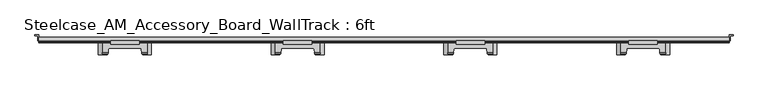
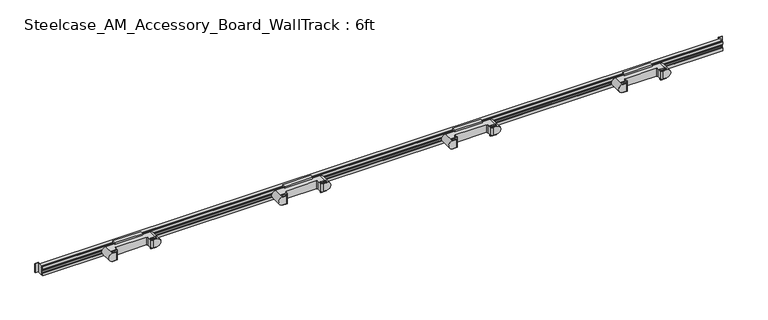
"""IFC4 building model written with IfcOpenShell, lengths in millimetres: furniture geometry, Steelcase_AM_Accessory_Board_WallTrack : 6ft."""

from ifc_helpers import new_model, si_unit, point, frame, frame_2d, origin, place, context, project, spatial, polyline, circle_curve, trimmed, segment, composite_curve, outline, extrude, source, transform, mapped, element, save
from ifc_brep_helpers import plane_surface, cylinder_surface, revolved_surface, advanced_brep


def steelcase_am_accessory_board_walltrack_6ft_874cfd16(model_context):
    return source(origin(), model_context, "Body", "SolidModel", [
        extrude(outline(composite_curve([segment(polyline([(914.5909219, -104.4956), (929.5396133, -104.4956), (929.4187577, -105.8769861)]), True, "CONTINUOUS"), segment(trimmed(circle_curve(frame_2d((924.6617288, -105.4608)), 4.7752), [point((929.4187577, -105.8769861))], [point((928.8948504, -107.6706))], False, "CARTESIAN"), True, "CONTINUOUS"), segment(polyline([(928.8948504, -107.6706), (914.5909219, -107.6706), (914.5909219, -104.4956)]), True, "CONTINUOUS")], self_intersect=False)), frame((0.0, 0.0, 616.4072), z_axis=(0.0, 0.0, 1.0), x_axis=(1.0, 0.0, 0.0)), (0.0, 0.0, 1.0), 3.2512),
        extrude(outline(composite_curve([segment(polyline([(1033.7169219, -104.4956), (1033.7169219, -107.6706), (1019.4129934, -107.6706)]), True, "CONTINUOUS"), segment(trimmed(circle_curve(frame_2d((1023.646115, -105.4608)), 4.7752), [point((1019.4129934, -107.6706))], [point((1018.8890861, -105.8769861))], False, "CARTESIAN"), True, "CONTINUOUS"), segment(polyline([(1018.8890861, -105.8769861), (1018.7682305, -104.4956), (1033.7169219, -104.4956)]), True, "CONTINUOUS")], self_intersect=False)), frame((0.0, 0.0, 616.4072), z_axis=(0.0, 0.0, 1.0), x_axis=(1.0, 0.0, 0.0)), (0.0, 0.0, 1.0), 3.2512),
        extrude(outline(composite_curve([segment(polyline([(914.5909219, -104.4956), (929.5396133, -104.4956), (929.4187577, -105.8769861)]), True, "CONTINUOUS"), segment(trimmed(circle_curve(frame_2d((924.6617288, -105.4608)), 4.7752), [point((929.4187577, -105.8769861))], [point((928.8948504, -107.6706))], False, "CARTESIAN"), True, "CONTINUOUS"), segment(polyline([(928.8948504, -107.6706), (914.5909219, -107.6706), (914.5909219, -104.4956)]), True, "CONTINUOUS")], self_intersect=False)), frame((0.0, 0.0, 641.604), z_axis=(0.0, 0.0, 1.0), x_axis=(1.0, 0.0, 0.0)), (0.0, 0.0, 1.0), 3.2512),
        extrude(outline(composite_curve([segment(polyline([(1033.7169219, -104.4956), (1033.7169219, -107.6706), (1019.4129934, -107.6706)]), True, "CONTINUOUS"), segment(trimmed(circle_curve(frame_2d((1023.646115, -105.4608)), 4.7752), [point((1019.4129934, -107.6706))], [point((1018.8890861, -105.8769861))], False, "CARTESIAN"), True, "CONTINUOUS"), segment(polyline([(1018.8890861, -105.8769861), (1018.7682305, -104.4956), (1033.7169219, -104.4956)]), True, "CONTINUOUS")], self_intersect=False)), frame((0.0, 0.0, 641.604), z_axis=(0.0, 0.0, 1.0), x_axis=(1.0, 0.0, 0.0)), (0.0, 0.0, 1.0), 3.2512),
        advanced_brep(
        [(930.3842883, -94.8409207, 641.604), (932.7374994, -92.6846, 641.604), (1015.5703444, -92.6846, 641.604), (1017.9235555, -94.8409207, 641.604), (1018.8890861, -105.8769861, 641.604), (1023.646115, -110.236, 641.604), (1033.3359219, -110.236, 641.604), (1033.3359219, -78.359, 641.604), (914.9719219, -78.359, 641.604), (914.9719219, -110.236, 641.604), (924.6617288, -110.236, 641.604), (929.4187577, -105.8769861, 641.604), (930.3842883, -94.8409207, 619.6584), (929.4187577, -105.8769861, 619.6584), (924.6617288, -110.236, 619.6584), (914.9719219, -110.236, 619.6584), (914.9719219, -78.359, 619.6584), (1033.3359219, -78.359, 619.6584), (1033.3359219, -110.236, 619.6584), (1023.646115, -110.236, 619.6584), (1018.8890861, -105.8769861, 619.6584), (1017.9235555, -94.8409207, 619.6584), (1015.5703444, -92.6846, 619.6584), (932.7374994, -92.6846, 619.6584), (1044.3087219, -110.236, 630.6312), (1044.3087219, -78.359, 630.6312), (903.9991219, -78.359, 630.6312), (903.9991219, -110.236, 630.6312)],
        [
            (0, 1, circle_curve(frame((932.7374994, -95.0468, 641.604), z_axis=(0.0, 0.0, -1.0), x_axis=(-0.9961946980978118, 0.08715574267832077, 0.0)), 2.3622)),
            (1, 2),
            (2, 3, circle_curve(frame((1015.5703444, -95.0468, 641.604), z_axis=(0.0, 0.0, -1.0), x_axis=(0.0, 1.0, 0.0)), 2.3622)),
            (3, 4),
            (4, 5, circle_curve(frame((1023.646115, -105.4608, 641.604), z_axis=(0.0, 0.0, 1.0), x_axis=(-0.9961946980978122, -0.08715574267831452, 0.0)), 4.7752)),
            (5, 6),
            (6, 7),
            (7, 8),
            (8, 9),
            (9, 10),
            (10, 11, circle_curve(frame((924.6617288, -105.4608, 641.604), z_axis=(0.0, 0.0, 1.0), x_axis=(0.0, -1.0, 0.0)), 4.7752)),
            (11, 0),
            (12, 13),
            (13, 14, circle_curve(frame((924.6617288, -105.4608, 619.6584), z_axis=(0.0, 0.0, -1.0), x_axis=(0.0, -1.0, 0.0)), 4.7752)),
            (14, 15),
            (15, 16),
            (16, 17),
            (17, 18),
            (18, 19),
            (19, 20, circle_curve(frame((1023.646115, -105.4608, 619.6584), z_axis=(0.0, 0.0, -1.0), x_axis=(-0.9961946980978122, -0.08715574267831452, 0.0)), 4.7752)),
            (20, 21),
            (21, 22, circle_curve(frame((1015.5703444, -95.0468, 619.6584), z_axis=(0.0, 0.0, 1.0), x_axis=(0.0, 1.0, 0.0)), 2.3622)),
            (22, 23),
            (23, 12, circle_curve(frame((932.7374994, -95.0468, 619.6584), z_axis=(0.0, 0.0, 1.0), x_axis=(-0.9961946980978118, 0.08715574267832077, 0.0)), 2.3622)),
            (0, 12),
            (23, 1),
            (22, 2),
            (21, 3),
            (20, 4),
            (19, 5),
            (18, 24, circle_curve(frame((1033.3359219, -110.236, 630.6312), z_axis=(0.0, -1.0, 0.0), x_axis=(-1.0, 0.0, 0.0)), 10.9728)),
            (24, 6, circle_curve(frame((1033.3359219, -110.236, 630.6312), z_axis=(0.0, -1.0, 0.0), x_axis=(-1.0, 0.0, 0.0)), 10.9728)),
            (7, 25, circle_curve(frame((1033.3359219, -78.359, 630.6312), z_axis=(0.0, 1.0, 0.0), x_axis=(-1.0, 0.0, 0.0)), 10.9728)),
            (25, 17, circle_curve(frame((1033.3359219, -78.359, 630.6312), z_axis=(0.0, 1.0, 0.0), x_axis=(-1.0, 0.0, 0.0)), 10.9728)),
            (16, 26, circle_curve(frame((914.9719219, -78.359, 630.6312), z_axis=(0.0, 1.0, 0.0), x_axis=(1.0, 0.0, 0.0)), 10.9728)),
            (26, 8, circle_curve(frame((914.9719219, -78.359, 630.6312), z_axis=(0.0, 1.0, 0.0), x_axis=(1.0, 0.0, 0.0)), 10.9728)),
            (14, 10),
            (9, 27, circle_curve(frame((914.9719219, -110.236, 630.6312), z_axis=(0.0, -1.0, 0.0), x_axis=(1.0, 0.0, 0.0)), 10.9728)),
            (27, 15, circle_curve(frame((914.9719219, -110.236, 630.6312), z_axis=(0.0, -1.0, 0.0), x_axis=(1.0, 0.0, 0.0)), 10.9728)),
            (13, 11),
        ],
        [
            plane_surface(frame((930.3842883, -94.8409207, 641.604), z_axis=(0.0, 0.0, 1.0), x_axis=(0.08715574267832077, 0.9961946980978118, 0.0))),
            plane_surface(frame((930.3842883, -94.8409207, 619.6584), z_axis=(0.0, 0.0, -1.0), x_axis=(-0.08715574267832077, -0.9961946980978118, 0.0))),
            revolved_surface(polyline([(930.3842882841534, -94.84092070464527, 619.6584), (930.3842882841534, -94.84092070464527, 641.604)]), (932.7374994, -95.0468, 619.6584), (0.0, 0.0, -1.0)),
            plane_surface(frame((932.7374994, -92.6846, 641.604), z_axis=(0.0, -1.0, 0.0), x_axis=(0.0, 0.0, -1.0))),
            revolved_surface(polyline([(1015.5703444, -92.6846, 619.6584), (1015.5703444, -92.6846, 641.604)]), (1015.5703444, -95.0468, 619.6584), (0.0, 0.0, -1.0)),
            plane_surface(frame((1017.9235555, -94.8409207, 641.604), z_axis=(-0.9961946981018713, -0.08715574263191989, 0.0), x_axis=(0.0, 0.0, -1.0))),
            cylinder_surface(frame((1023.646115, -105.4608, 619.6584), z_axis=(0.0, 0.0, 0.9999999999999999), x_axis=(-0.9961946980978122, -0.08715574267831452, 0.0)), 4.7752),
            plane_surface(frame((1023.646115, -110.236, 641.604), z_axis=(0.0, -1.0, 0.0), x_axis=(0.0, 0.0, -1.0))),
            plane_surface(frame((1044.3087219, -78.359, 641.604), z_axis=(0.0, 1.0, 0.0), x_axis=(0.0, 0.0, -1.0))),
            plane_surface(frame((903.9991219, -110.236, 641.604), z_axis=(0.0, -1.0, 0.0), x_axis=(0.0, 0.0, -1.0))),
            cylinder_surface(frame((924.6617288, -105.4608, 619.6584), z_axis=(0.0, 0.0, 1.0), x_axis=(0.0, -1.0, 0.0)), 4.7752),
            plane_surface(frame((929.4187577, -105.8769861, 641.604), z_axis=(0.9961946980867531, -0.08715574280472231, 0.0), x_axis=(0.0, 0.0, -1.0))),
            cylinder_surface(frame((914.9719219, -27.559, 630.6312), z_axis=(0.0, 1.0, 0.0), x_axis=(1.0, 0.0, 0.0)), 10.9728),
            cylinder_surface(frame((1033.3359219, -78.359, 630.6312), z_axis=(0.0, 1.0, 0.0), x_axis=(-1.0, 0.0, 0.0)), 10.9728),
        ],
        [
            (0, [[1, 2, 3, 4, 5, 6, 7, 8, 9, 10, 11, 12]]),
            (1, [[13, 14, 15, 16, 17, 18, 19, 20, 21, 22, 23, 24]]),
            (2, [[-1, 25, -24, 26]]),
            (3, [[-2, -26, -23, 27]]),
            (4, [[-3, -27, -22, 28]]),
            (5, [[-4, -28, -21, 29]]),
            (6, [[-5, -29, -20, 30]]),
            (7, [[-30, -19, 31, 32, -6]]),
            (8, [[-8, 33, 34, -17, 35, 36]]),
            (9, [[37, -10, 38, 39, -15]]),
            (10, [[-11, -37, -14, 40]]),
            (11, [[-12, -40, -13, -25]]),
            (12, [[-9, -36, -35, -16, -39, -38]]),
            (13, [[-7, -32, -31, -18, -34, -33]]),
        ],
    ),
        extrude(outline(polyline([(-81.661, 646.6636205), (-72.898, 646.6636205), (-72.898, 640.4094834), (-76.2, 640.4094834), (-76.2, 643.3616205), (-78.359, 643.3616205), (-78.359, 641.604), (-81.661, 641.604), (-81.661, 646.6636205)])), frame((936.6889219, 0.0, 0.0), z_axis=(1.0, 0.0, 0.0), x_axis=(0.0, 1.0, 0.0)), (0.0, 0.0, 1.0), 74.93),
        extrude(outline(polyline([(-81.661, 614.6382676), (-81.661, 619.6978881), (-78.359, 619.6978881), (-78.359, 617.9402676), (-76.2, 617.9402676), (-76.2, 620.8924047), (-72.898, 620.8924047), (-72.898, 614.6382676), (-81.661, 614.6382676)])), frame((936.6889219, 0.0, 0.0), z_axis=(1.0, 0.0, 0.0), x_axis=(0.0, 1.0, 0.0)), (0.0, 0.0, 1.0), 74.93),
        extrude(outline(composite_curve([segment(polyline([(457.3909219, -104.4956), (472.3396133, -104.4956), (472.2187577, -105.8769861)]), True, "CONTINUOUS"), segment(trimmed(circle_curve(frame_2d((467.4617288, -105.4608)), 4.7752), [point((472.2187577, -105.8769861))], [point((471.6948504, -107.6706))], False, "CARTESIAN"), True, "CONTINUOUS"), segment(polyline([(471.6948504, -107.6706), (457.3909219, -107.6706), (457.3909219, -104.4956)]), True, "CONTINUOUS")], self_intersect=False)), frame((0.0, 0.0, 616.4072), z_axis=(0.0, 0.0, 1.0), x_axis=(1.0, 0.0, 0.0)), (0.0, 0.0, 1.0), 3.2512),
        extrude(outline(composite_curve([segment(polyline([(576.5169219, -104.4956), (576.5169219, -107.6706), (562.2129934, -107.6706)]), True, "CONTINUOUS"), segment(trimmed(circle_curve(frame_2d((566.446115, -105.4608)), 4.7752), [point((562.2129934, -107.6706))], [point((561.6890861, -105.8769861))], False, "CARTESIAN"), True, "CONTINUOUS"), segment(polyline([(561.6890861, -105.8769861), (561.5682305, -104.4956), (576.5169219, -104.4956)]), True, "CONTINUOUS")], self_intersect=False)), frame((0.0, 0.0, 616.4072), z_axis=(0.0, 0.0, 1.0), x_axis=(1.0, 0.0, 0.0)), (0.0, 0.0, 1.0), 3.2512),
        extrude(outline(composite_curve([segment(polyline([(457.3909219, -104.4956), (472.3396133, -104.4956), (472.2187577, -105.8769861)]), True, "CONTINUOUS"), segment(trimmed(circle_curve(frame_2d((467.4617288, -105.4608)), 4.7752), [point((472.2187577, -105.8769861))], [point((471.6948504, -107.6706))], False, "CARTESIAN"), True, "CONTINUOUS"), segment(polyline([(471.6948504, -107.6706), (457.3909219, -107.6706), (457.3909219, -104.4956)]), True, "CONTINUOUS")], self_intersect=False)), frame((0.0, 0.0, 641.604), z_axis=(0.0, 0.0, 1.0), x_axis=(1.0, 0.0, 0.0)), (0.0, 0.0, 1.0), 3.2512),
        extrude(outline(composite_curve([segment(polyline([(576.5169219, -104.4956), (576.5169219, -107.6706), (562.2129934, -107.6706)]), True, "CONTINUOUS"), segment(trimmed(circle_curve(frame_2d((566.446115, -105.4608)), 4.7752), [point((562.2129934, -107.6706))], [point((561.6890861, -105.8769861))], False, "CARTESIAN"), True, "CONTINUOUS"), segment(polyline([(561.6890861, -105.8769861), (561.5682305, -104.4956), (576.5169219, -104.4956)]), True, "CONTINUOUS")], self_intersect=False)), frame((0.0, 0.0, 641.604), z_axis=(0.0, 0.0, 1.0), x_axis=(1.0, 0.0, 0.0)), (0.0, 0.0, 1.0), 3.2512),
        advanced_brep(
        [(473.1842883, -94.8409207, 641.604), (475.5374994, -92.6846, 641.604), (558.3703444, -92.6846, 641.604), (560.7235555, -94.8409207, 641.604), (561.6890861, -105.8769861, 641.604), (566.446115, -110.236, 641.604), (576.1359219, -110.236, 641.604), (576.1359219, -78.359, 641.604), (457.7719219, -78.359, 641.604), (457.7719219, -110.236, 641.604), (467.4617288, -110.236, 641.604), (472.2187577, -105.8769861, 641.604), (473.1842883, -94.8409207, 619.6584), (472.2187577, -105.8769861, 619.6584), (467.4617288, -110.236, 619.6584), (457.7719219, -110.236, 619.6584), (457.7719219, -78.359, 619.6584), (576.1359219, -78.359, 619.6584), (576.1359219, -110.236, 619.6584), (566.446115, -110.236, 619.6584), (561.6890861, -105.8769861, 619.6584), (560.7235555, -94.8409207, 619.6584), (558.3703444, -92.6846, 619.6584), (475.5374994, -92.6846, 619.6584), (587.1087219, -110.236, 630.6312), (587.1087219, -78.359, 630.6312), (446.7991219, -78.359, 630.6312), (446.7991219, -110.236, 630.6312)],
        [
            (0, 1, circle_curve(frame((475.5374994, -95.0468, 641.604), z_axis=(0.0, 0.0, -1.0), x_axis=(-0.9961946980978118, 0.08715574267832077, 0.0)), 2.3622)),
            (1, 2),
            (2, 3, circle_curve(frame((558.3703444, -95.0468, 641.604), z_axis=(0.0, 0.0, -1.0), x_axis=(0.0, 1.0, 0.0)), 2.3622)),
            (3, 4),
            (4, 5, circle_curve(frame((566.446115, -105.4608, 641.604), z_axis=(0.0, 0.0, 1.0), x_axis=(-0.9961946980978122, -0.08715574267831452, 0.0)), 4.7752)),
            (5, 6),
            (6, 7),
            (7, 8),
            (8, 9),
            (9, 10),
            (10, 11, circle_curve(frame((467.4617288, -105.4608, 641.604), z_axis=(0.0, 0.0, 1.0), x_axis=(0.0, -1.0, 0.0)), 4.7752)),
            (11, 0),
            (12, 13),
            (13, 14, circle_curve(frame((467.4617288, -105.4608, 619.6584), z_axis=(0.0, 0.0, -1.0), x_axis=(0.0, -1.0, 0.0)), 4.7752)),
            (14, 15),
            (15, 16),
            (16, 17),
            (17, 18),
            (18, 19),
            (19, 20, circle_curve(frame((566.446115, -105.4608, 619.6584), z_axis=(0.0, 0.0, -1.0), x_axis=(-0.9961946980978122, -0.08715574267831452, 0.0)), 4.7752)),
            (20, 21),
            (21, 22, circle_curve(frame((558.3703444, -95.0468, 619.6584), z_axis=(0.0, 0.0, 1.0), x_axis=(0.0, 1.0, 0.0)), 2.3622)),
            (22, 23),
            (23, 12, circle_curve(frame((475.5374994, -95.0468, 619.6584), z_axis=(0.0, 0.0, 1.0), x_axis=(-0.9961946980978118, 0.08715574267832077, 0.0)), 2.3622)),
            (0, 12),
            (23, 1),
            (22, 2),
            (21, 3),
            (20, 4),
            (19, 5),
            (18, 24, circle_curve(frame((576.1359219, -110.236, 630.6312), z_axis=(0.0, -1.0, 0.0), x_axis=(-1.0, 0.0, 0.0)), 10.9728)),
            (24, 6, circle_curve(frame((576.1359219, -110.236, 630.6312), z_axis=(0.0, -1.0, 0.0), x_axis=(-1.0, 0.0, 0.0)), 10.9728)),
            (7, 25, circle_curve(frame((576.1359219, -78.359, 630.6312), z_axis=(0.0, 1.0, 0.0), x_axis=(-1.0, 0.0, 0.0)), 10.9728)),
            (25, 17, circle_curve(frame((576.1359219, -78.359, 630.6312), z_axis=(0.0, 1.0, 0.0), x_axis=(-1.0, 0.0, 0.0)), 10.9728)),
            (16, 26, circle_curve(frame((457.7719219, -78.359, 630.6312), z_axis=(0.0, 1.0, 0.0), x_axis=(1.0, 0.0, 0.0)), 10.9728)),
            (26, 8, circle_curve(frame((457.7719219, -78.359, 630.6312), z_axis=(0.0, 1.0, 0.0), x_axis=(1.0, 0.0, 0.0)), 10.9728)),
            (14, 10),
            (9, 27, circle_curve(frame((457.7719219, -110.236, 630.6312), z_axis=(0.0, -1.0, 0.0), x_axis=(1.0, 0.0, 0.0)), 10.9728)),
            (27, 15, circle_curve(frame((457.7719219, -110.236, 630.6312), z_axis=(0.0, -1.0, 0.0), x_axis=(1.0, 0.0, 0.0)), 10.9728)),
            (13, 11),
        ],
        [
            plane_surface(frame((473.1842883, -94.8409207, 641.604), z_axis=(0.0, 0.0, 1.0), x_axis=(0.08715574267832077, 0.9961946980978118, 0.0))),
            plane_surface(frame((473.1842883, -94.8409207, 619.6584), z_axis=(0.0, 0.0, -1.0), x_axis=(-0.08715574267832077, -0.9961946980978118, 0.0))),
            revolved_surface(polyline([(473.18428828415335, -94.84092070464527, 619.6584), (473.18428828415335, -94.84092070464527, 641.604)]), (475.5374994, -95.0468, 619.6584), (0.0, 0.0, -1.0)),
            plane_surface(frame((475.5374994, -92.6846, 641.604), z_axis=(0.0, -1.0, 0.0), x_axis=(0.0, 0.0, -1.0))),
            revolved_surface(polyline([(558.3703444, -92.6846, 619.6584), (558.3703444, -92.6846, 641.604)]), (558.3703444, -95.0468, 619.6584), (0.0, 0.0, -1.0)),
            plane_surface(frame((560.7235555, -94.8409207, 641.604), z_axis=(-0.9961946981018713, -0.08715574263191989, 0.0), x_axis=(0.0, 0.0, -1.0))),
            cylinder_surface(frame((566.446115, -105.4608, 619.6584), z_axis=(0.0, 0.0, 0.9999999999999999), x_axis=(-0.9961946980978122, -0.08715574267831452, 0.0)), 4.7752),
            plane_surface(frame((566.446115, -110.236, 641.604), z_axis=(0.0, -1.0, 0.0), x_axis=(0.0, 0.0, -1.0))),
            plane_surface(frame((587.1087219, -78.359, 641.604), z_axis=(0.0, 1.0, 0.0), x_axis=(0.0, 0.0, -1.0))),
            plane_surface(frame((446.7991219, -110.236, 641.604), z_axis=(0.0, -1.0, 0.0), x_axis=(0.0, 0.0, -1.0))),
            cylinder_surface(frame((467.4617288, -105.4608, 619.6584), z_axis=(0.0, 0.0, 1.0), x_axis=(0.0, -1.0, 0.0)), 4.7752),
            plane_surface(frame((472.2187577, -105.8769861, 641.604), z_axis=(0.9961946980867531, -0.08715574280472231, 0.0), x_axis=(0.0, 0.0, -1.0))),
            cylinder_surface(frame((457.7719219, -27.559, 630.6312), z_axis=(0.0, 1.0, 0.0), x_axis=(1.0, 0.0, 0.0)), 10.9728),
            cylinder_surface(frame((576.1359219, -78.359, 630.6312), z_axis=(0.0, 1.0, 0.0), x_axis=(-1.0, 0.0, 0.0)), 10.9728),
        ],
        [
            (0, [[1, 2, 3, 4, 5, 6, 7, 8, 9, 10, 11, 12]]),
            (1, [[13, 14, 15, 16, 17, 18, 19, 20, 21, 22, 23, 24]]),
            (2, [[-1, 25, -24, 26]]),
            (3, [[-2, -26, -23, 27]]),
            (4, [[-3, -27, -22, 28]]),
            (5, [[-4, -28, -21, 29]]),
            (6, [[-5, -29, -20, 30]]),
            (7, [[-30, -19, 31, 32, -6]]),
            (8, [[-8, 33, 34, -17, 35, 36]]),
            (9, [[37, -10, 38, 39, -15]]),
            (10, [[-11, -37, -14, 40]]),
            (11, [[-12, -40, -13, -25]]),
            (12, [[-9, -36, -35, -16, -39, -38]]),
            (13, [[-7, -32, -31, -18, -34, -33]]),
        ],
    ),
        extrude(outline(polyline([(-81.661, 646.6636205), (-72.898, 646.6636205), (-72.898, 640.4094834), (-76.2, 640.4094834), (-76.2, 643.3616205), (-78.359, 643.3616205), (-78.359, 641.604), (-81.661, 641.604), (-81.661, 646.6636205)])), frame((479.4889219, 0.0, 0.0), z_axis=(1.0, 0.0, 0.0), x_axis=(0.0, 1.0, 0.0)), (0.0, 0.0, 1.0), 74.93),
        extrude(outline(polyline([(-81.661, 614.6382676), (-81.661, 619.6978881), (-78.359, 619.6978881), (-78.359, 617.9402676), (-76.2, 617.9402676), (-76.2, 620.8924047), (-72.898, 620.8924047), (-72.898, 614.6382676), (-81.661, 614.6382676)])), frame((479.4889219, 0.0, 0.0), z_axis=(1.0, 0.0, 0.0), x_axis=(0.0, 1.0, 0.0)), (0.0, 0.0, 1.0), 74.93),
        extrude(outline(composite_curve([segment(polyline([(0.1909219, -104.4956), (15.1396133, -104.4956), (15.0187577, -105.8769861)]), True, "CONTINUOUS"), segment(trimmed(circle_curve(frame_2d((10.2617288, -105.4608)), 4.7752), [point((15.0187577, -105.8769861))], [point((14.4948504, -107.6706))], False, "CARTESIAN"), True, "CONTINUOUS"), segment(polyline([(14.4948504, -107.6706), (0.1909219, -107.6706), (0.1909219, -104.4956)]), True, "CONTINUOUS")], self_intersect=False)), frame((0.0, 0.0, 616.4072), z_axis=(0.0, 0.0, 1.0), x_axis=(1.0, 0.0, 0.0)), (0.0, 0.0, 1.0), 3.2512),
        extrude(outline(composite_curve([segment(polyline([(119.3169219, -104.4956), (119.3169219, -107.6706), (105.0129934, -107.6706)]), True, "CONTINUOUS"), segment(trimmed(circle_curve(frame_2d((109.246115, -105.4608)), 4.7752), [point((105.0129934, -107.6706))], [point((104.4890861, -105.8769861))], False, "CARTESIAN"), True, "CONTINUOUS"), segment(polyline([(104.4890861, -105.8769861), (104.3682305, -104.4956), (119.3169219, -104.4956)]), True, "CONTINUOUS")], self_intersect=False)), frame((0.0, 0.0, 616.4072), z_axis=(0.0, 0.0, 1.0), x_axis=(1.0, 0.0, 0.0)), (0.0, 0.0, 1.0), 3.2512),
        extrude(outline(composite_curve([segment(polyline([(0.1909219, -104.4956), (15.1396133, -104.4956), (15.0187577, -105.8769861)]), True, "CONTINUOUS"), segment(trimmed(circle_curve(frame_2d((10.2617288, -105.4608)), 4.7752), [point((15.0187577, -105.8769861))], [point((14.4948504, -107.6706))], False, "CARTESIAN"), True, "CONTINUOUS"), segment(polyline([(14.4948504, -107.6706), (0.1909219, -107.6706), (0.1909219, -104.4956)]), True, "CONTINUOUS")], self_intersect=False)), frame((0.0, 0.0, 641.604), z_axis=(0.0, 0.0, 1.0), x_axis=(1.0, 0.0, 0.0)), (0.0, 0.0, 1.0), 3.2512),
        extrude(outline(composite_curve([segment(polyline([(119.3169219, -104.4956), (119.3169219, -107.6706), (105.0129934, -107.6706)]), True, "CONTINUOUS"), segment(trimmed(circle_curve(frame_2d((109.246115, -105.4608)), 4.7752), [point((105.0129934, -107.6706))], [point((104.4890861, -105.8769861))], False, "CARTESIAN"), True, "CONTINUOUS"), segment(polyline([(104.4890861, -105.8769861), (104.3682305, -104.4956), (119.3169219, -104.4956)]), True, "CONTINUOUS")], self_intersect=False)), frame((0.0, 0.0, 641.604), z_axis=(0.0, 0.0, 1.0), x_axis=(1.0, 0.0, 0.0)), (0.0, 0.0, 1.0), 3.2512),
        advanced_brep(
        [(15.9842883, -94.8409207, 641.604), (18.3374994, -92.6846, 641.604), (101.1703444, -92.6846, 641.604), (103.5235555, -94.8409207, 641.604), (104.4890861, -105.8769861, 641.604), (109.246115, -110.236, 641.604), (118.9359219, -110.236, 641.604), (118.9359219, -78.359, 641.604), (0.5719219, -78.359, 641.604), (0.5719219, -110.236, 641.604), (10.2617288, -110.236, 641.604), (15.0187577, -105.8769861, 641.604), (15.9842883, -94.8409207, 619.6584), (15.0187577, -105.8769861, 619.6584), (10.2617288, -110.236, 619.6584), (0.5719219, -110.236, 619.6584), (0.5719219, -78.359, 619.6584), (118.9359219, -78.359, 619.6584), (118.9359219, -110.236, 619.6584), (109.246115, -110.236, 619.6584), (104.4890861, -105.8769861, 619.6584), (103.5235555, -94.8409207, 619.6584), (101.1703444, -92.6846, 619.6584), (18.3374994, -92.6846, 619.6584), (129.9087219, -110.236, 630.6312), (129.9087219, -78.359, 630.6312), (-10.4008781, -78.359, 630.6312), (-10.4008781, -110.236, 630.6312)],
        [
            (0, 1, circle_curve(frame((18.3374994, -95.0468, 641.604), z_axis=(0.0, 0.0, -1.0), x_axis=(-0.9961946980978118, 0.08715574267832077, 0.0)), 2.3622)),
            (1, 2),
            (2, 3, circle_curve(frame((101.1703444, -95.0468, 641.604), z_axis=(0.0, 0.0, -1.0), x_axis=(0.0, 1.0, 0.0)), 2.3622)),
            (3, 4),
            (4, 5, circle_curve(frame((109.246115, -105.4608, 641.604), z_axis=(0.0, 0.0, 1.0), x_axis=(-0.9961946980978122, -0.08715574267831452, 0.0)), 4.7752)),
            (5, 6),
            (6, 7),
            (7, 8),
            (8, 9),
            (9, 10),
            (10, 11, circle_curve(frame((10.2617288, -105.4608, 641.604), z_axis=(0.0, 0.0, 1.0), x_axis=(0.0, -1.0, 0.0)), 4.7752)),
            (11, 0),
            (12, 13),
            (13, 14, circle_curve(frame((10.2617288, -105.4608, 619.6584), z_axis=(0.0, 0.0, -1.0), x_axis=(0.0, -1.0, 0.0)), 4.7752)),
            (14, 15),
            (15, 16),
            (16, 17),
            (17, 18),
            (18, 19),
            (19, 20, circle_curve(frame((109.246115, -105.4608, 619.6584), z_axis=(0.0, 0.0, -1.0), x_axis=(-0.9961946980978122, -0.08715574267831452, 0.0)), 4.7752)),
            (20, 21),
            (21, 22, circle_curve(frame((101.1703444, -95.0468, 619.6584), z_axis=(0.0, 0.0, 1.0), x_axis=(0.0, 1.0, 0.0)), 2.3622)),
            (22, 23),
            (23, 12, circle_curve(frame((18.3374994, -95.0468, 619.6584), z_axis=(0.0, 0.0, 1.0), x_axis=(-0.9961946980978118, 0.08715574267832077, 0.0)), 2.3622)),
            (0, 12),
            (23, 1),
            (22, 2),
            (21, 3),
            (20, 4),
            (19, 5),
            (18, 24, circle_curve(frame((118.9359219, -110.236, 630.6312), z_axis=(0.0, -1.0, 0.0), x_axis=(-1.0, 0.0, 0.0)), 10.9728)),
            (24, 6, circle_curve(frame((118.9359219, -110.236, 630.6312), z_axis=(0.0, -1.0, 0.0), x_axis=(-1.0, 0.0, 0.0)), 10.9728)),
            (7, 25, circle_curve(frame((118.9359219, -78.359, 630.6312), z_axis=(0.0, 1.0, 0.0), x_axis=(-1.0, 0.0, 0.0)), 10.9728)),
            (25, 17, circle_curve(frame((118.9359219, -78.359, 630.6312), z_axis=(0.0, 1.0, 0.0), x_axis=(-1.0, 0.0, 0.0)), 10.9728)),
            (16, 26, circle_curve(frame((0.5719219, -78.359, 630.6312), z_axis=(0.0, 1.0, 0.0), x_axis=(1.0, 0.0, 0.0)), 10.9728)),
            (26, 8, circle_curve(frame((0.5719219, -78.359, 630.6312), z_axis=(0.0, 1.0, 0.0), x_axis=(1.0, 0.0, 0.0)), 10.9728)),
            (14, 10),
            (9, 27, circle_curve(frame((0.5719219, -110.236, 630.6312), z_axis=(0.0, -1.0, 0.0), x_axis=(1.0, 0.0, 0.0)), 10.9728)),
            (27, 15, circle_curve(frame((0.5719219, -110.236, 630.6312), z_axis=(0.0, -1.0, 0.0), x_axis=(1.0, 0.0, 0.0)), 10.9728)),
            (13, 11),
        ],
        [
            plane_surface(frame((15.9842883, -94.8409207, 641.604), z_axis=(0.0, 0.0, 1.0), x_axis=(0.08715574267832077, 0.9961946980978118, 0.0))),
            plane_surface(frame((15.9842883, -94.8409207, 619.6584), z_axis=(0.0, 0.0, -1.0), x_axis=(-0.08715574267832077, -0.9961946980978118, 0.0))),
            revolved_surface(polyline([(15.984288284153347, -94.84092070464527, 619.6584), (15.984288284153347, -94.84092070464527, 641.604)]), (18.3374994, -95.0468, 619.6584), (0.0, 0.0, -1.0)),
            plane_surface(frame((18.3374994, -92.6846, 641.604), z_axis=(0.0, -1.0, 0.0), x_axis=(0.0, 0.0, -1.0))),
            revolved_surface(polyline([(101.1703444, -92.6846, 619.6584), (101.1703444, -92.6846, 641.604)]), (101.1703444, -95.0468, 619.6584), (0.0, 0.0, -1.0)),
            plane_surface(frame((103.5235555, -94.8409207, 641.604), z_axis=(-0.9961946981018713, -0.08715574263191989, 0.0), x_axis=(0.0, 0.0, -1.0))),
            cylinder_surface(frame((109.246115, -105.4608, 619.6584), z_axis=(0.0, 0.0, 0.9999999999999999), x_axis=(-0.9961946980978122, -0.08715574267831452, 0.0)), 4.7752),
            plane_surface(frame((109.246115, -110.236, 641.604), z_axis=(0.0, -1.0, 0.0), x_axis=(0.0, 0.0, -1.0))),
            plane_surface(frame((129.9087219, -78.359, 641.604), z_axis=(0.0, 1.0, 0.0), x_axis=(0.0, 0.0, -1.0))),
            plane_surface(frame((-10.4008781, -110.236, 641.604), z_axis=(0.0, -1.0, 0.0), x_axis=(0.0, 0.0, -1.0))),
            cylinder_surface(frame((10.2617288, -105.4608, 619.6584), z_axis=(0.0, 0.0, 1.0), x_axis=(0.0, -1.0, 0.0)), 4.7752),
            plane_surface(frame((15.0187577, -105.8769861, 641.604), z_axis=(0.9961946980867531, -0.08715574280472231, 0.0), x_axis=(0.0, 0.0, -1.0))),
            cylinder_surface(frame((0.5719219, -27.559, 630.6312), z_axis=(0.0, 1.0, 0.0), x_axis=(1.0, 0.0, 0.0)), 10.9728),
            cylinder_surface(frame((118.9359219, -78.359, 630.6312), z_axis=(0.0, 1.0, 0.0), x_axis=(-1.0, 0.0, 0.0)), 10.9728),
        ],
        [
            (0, [[1, 2, 3, 4, 5, 6, 7, 8, 9, 10, 11, 12]]),
            (1, [[13, 14, 15, 16, 17, 18, 19, 20, 21, 22, 23, 24]]),
            (2, [[-1, 25, -24, 26]]),
            (3, [[-2, -26, -23, 27]]),
            (4, [[-3, -27, -22, 28]]),
            (5, [[-4, -28, -21, 29]]),
            (6, [[-5, -29, -20, 30]]),
            (7, [[-30, -19, 31, 32, -6]]),
            (8, [[-8, 33, 34, -17, 35, 36]]),
            (9, [[37, -10, 38, 39, -15]]),
            (10, [[-11, -37, -14, 40]]),
            (11, [[-12, -40, -13, -25]]),
            (12, [[-9, -36, -35, -16, -39, -38]]),
            (13, [[-7, -32, -31, -18, -34, -33]]),
        ],
    ),
        extrude(outline(polyline([(-81.661, 646.6636205), (-72.898, 646.6636205), (-72.898, 640.4094834), (-76.2, 640.4094834), (-76.2, 643.3616205), (-78.359, 643.3616205), (-78.359, 641.604), (-81.661, 641.604), (-81.661, 646.6636205)])), frame((22.2889219, 0.0, 0.0), z_axis=(1.0, 0.0, 0.0), x_axis=(0.0, 1.0, 0.0)), (0.0, 0.0, 1.0), 74.93),
        extrude(outline(polyline([(-81.661, 614.6382676), (-81.661, 619.6978881), (-78.359, 619.6978881), (-78.359, 617.9402676), (-76.2, 617.9402676), (-76.2, 620.8924047), (-72.898, 620.8924047), (-72.898, 614.6382676), (-81.661, 614.6382676)])), frame((22.2889219, 0.0, 0.0), z_axis=(1.0, 0.0, 0.0), x_axis=(0.0, 1.0, 0.0)), (0.0, 0.0, 1.0), 74.93),
        extrude(outline(composite_curve([segment(polyline([(-457.0090781, -104.4956), (-442.0603867, -104.4956), (-442.1812423, -105.8769861)]), True, "CONTINUOUS"), segment(trimmed(circle_curve(frame_2d((-446.9382712, -105.4608)), 4.7752), [point((-442.1812423, -105.8769861))], [point((-442.7051496, -107.6706))], False, "CARTESIAN"), True, "CONTINUOUS"), segment(polyline([(-442.7051496, -107.6706), (-457.0090781, -107.6706), (-457.0090781, -104.4956)]), True, "CONTINUOUS")], self_intersect=False)), frame((0.0, 0.0, 616.4072), z_axis=(0.0, 0.0, 1.0), x_axis=(1.0, 0.0, 0.0)), (0.0, 0.0, 1.0), 3.2512),
        extrude(outline(composite_curve([segment(polyline([(-337.8830781, -104.4956), (-337.8830781, -107.6706), (-352.1870066, -107.6706)]), True, "CONTINUOUS"), segment(trimmed(circle_curve(frame_2d((-347.953885, -105.4608)), 4.7752), [point((-352.1870066, -107.6706))], [point((-352.7109139, -105.8769861))], False, "CARTESIAN"), True, "CONTINUOUS"), segment(polyline([(-352.7109139, -105.8769861), (-352.8317695, -104.4956), (-337.8830781, -104.4956)]), True, "CONTINUOUS")], self_intersect=False)), frame((0.0, 0.0, 616.4072), z_axis=(0.0, 0.0, 1.0), x_axis=(1.0, 0.0, 0.0)), (0.0, 0.0, 1.0), 3.2512),
        extrude(outline(composite_curve([segment(polyline([(-457.0090781, -104.4956), (-442.0603867, -104.4956), (-442.1812423, -105.8769861)]), True, "CONTINUOUS"), segment(trimmed(circle_curve(frame_2d((-446.9382712, -105.4608)), 4.7752), [point((-442.1812423, -105.8769861))], [point((-442.7051496, -107.6706))], False, "CARTESIAN"), True, "CONTINUOUS"), segment(polyline([(-442.7051496, -107.6706), (-457.0090781, -107.6706), (-457.0090781, -104.4956)]), True, "CONTINUOUS")], self_intersect=False)), frame((0.0, 0.0, 641.604), z_axis=(0.0, 0.0, 1.0), x_axis=(1.0, 0.0, 0.0)), (0.0, 0.0, 1.0), 3.2512),
        extrude(outline(composite_curve([segment(polyline([(-337.8830781, -104.4956), (-337.8830781, -107.6706), (-352.1870066, -107.6706)]), True, "CONTINUOUS"), segment(trimmed(circle_curve(frame_2d((-347.953885, -105.4608)), 4.7752), [point((-352.1870066, -107.6706))], [point((-352.7109139, -105.8769861))], False, "CARTESIAN"), True, "CONTINUOUS"), segment(polyline([(-352.7109139, -105.8769861), (-352.8317695, -104.4956), (-337.8830781, -104.4956)]), True, "CONTINUOUS")], self_intersect=False)), frame((0.0, 0.0, 641.604), z_axis=(0.0, 0.0, 1.0), x_axis=(1.0, 0.0, 0.0)), (0.0, 0.0, 1.0), 3.2512),
        advanced_brep(
        [(-441.2157117, -94.8409207, 641.604), (-438.8625006, -92.6846, 641.604), (-356.0296556, -92.6846, 641.604), (-353.6764445, -94.8409207, 641.604), (-352.7109139, -105.8769861, 641.604), (-347.953885, -110.236, 641.604), (-338.2640781, -110.236, 641.604), (-338.2640781, -78.359, 641.604), (-456.6280781, -78.359, 641.604), (-456.6280781, -110.236, 641.604), (-446.9382712, -110.236, 641.604), (-442.1812423, -105.8769861, 641.604), (-441.2157117, -94.8409207, 619.6584), (-442.1812423, -105.8769861, 619.6584), (-446.9382712, -110.236, 619.6584), (-456.6280781, -110.236, 619.6584), (-456.6280781, -78.359, 619.6584), (-338.2640781, -78.359, 619.6584), (-338.2640781, -110.236, 619.6584), (-347.953885, -110.236, 619.6584), (-352.7109139, -105.8769861, 619.6584), (-353.6764445, -94.8409207, 619.6584), (-356.0296556, -92.6846, 619.6584), (-438.8625006, -92.6846, 619.6584), (-327.2912781, -110.236, 630.6312), (-327.2912781, -78.359, 630.6312), (-467.6008781, -78.359, 630.6312), (-467.6008781, -110.236, 630.6312)],
        [
            (0, 1, circle_curve(frame((-438.8625006, -95.0468, 641.604), z_axis=(0.0, 0.0, -1.0), x_axis=(-0.9961946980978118, 0.08715574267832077, 0.0)), 2.3622)),
            (1, 2),
            (2, 3, circle_curve(frame((-356.0296556, -95.0468, 641.604), z_axis=(0.0, 0.0, -1.0), x_axis=(0.0, 1.0, 0.0)), 2.3622)),
            (3, 4),
            (4, 5, circle_curve(frame((-347.953885, -105.4608, 641.604), z_axis=(0.0, 0.0, 1.0), x_axis=(-0.9961946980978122, -0.08715574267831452, 0.0)), 4.7752)),
            (5, 6),
            (6, 7),
            (7, 8),
            (8, 9),
            (9, 10),
            (10, 11, circle_curve(frame((-446.9382712, -105.4608, 641.604), z_axis=(0.0, 0.0, 1.0), x_axis=(0.0, -1.0, 0.0)), 4.7752)),
            (11, 0),
            (12, 13),
            (13, 14, circle_curve(frame((-446.9382712, -105.4608, 619.6584), z_axis=(0.0, 0.0, -1.0), x_axis=(0.0, -1.0, 0.0)), 4.7752)),
            (14, 15),
            (15, 16),
            (16, 17),
            (17, 18),
            (18, 19),
            (19, 20, circle_curve(frame((-347.953885, -105.4608, 619.6584), z_axis=(0.0, 0.0, -1.0), x_axis=(-0.9961946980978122, -0.08715574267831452, 0.0)), 4.7752)),
            (20, 21),
            (21, 22, circle_curve(frame((-356.0296556, -95.0468, 619.6584), z_axis=(0.0, 0.0, 1.0), x_axis=(0.0, 1.0, 0.0)), 2.3622)),
            (22, 23),
            (23, 12, circle_curve(frame((-438.8625006, -95.0468, 619.6584), z_axis=(0.0, 0.0, 1.0), x_axis=(-0.9961946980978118, 0.08715574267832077, 0.0)), 2.3622)),
            (0, 12),
            (23, 1),
            (22, 2),
            (21, 3),
            (20, 4),
            (19, 5),
            (18, 24, circle_curve(frame((-338.2640781, -110.236, 630.6312), z_axis=(0.0, -1.0, 0.0), x_axis=(-1.0, 0.0, 0.0)), 10.9728)),
            (24, 6, circle_curve(frame((-338.2640781, -110.236, 630.6312), z_axis=(0.0, -1.0, 0.0), x_axis=(-1.0, 0.0, 0.0)), 10.9728)),
            (7, 25, circle_curve(frame((-338.2640781, -78.359, 630.6312), z_axis=(0.0, 1.0, 0.0), x_axis=(-1.0, 0.0, 0.0)), 10.9728)),
            (25, 17, circle_curve(frame((-338.2640781, -78.359, 630.6312), z_axis=(0.0, 1.0, 0.0), x_axis=(-1.0, 0.0, 0.0)), 10.9728)),
            (16, 26, circle_curve(frame((-456.6280781, -78.359, 630.6312), z_axis=(0.0, 1.0, 0.0), x_axis=(1.0, 0.0, 0.0)), 10.9728)),
            (26, 8, circle_curve(frame((-456.6280781, -78.359, 630.6312), z_axis=(0.0, 1.0, 0.0), x_axis=(1.0, 0.0, 0.0)), 10.9728)),
            (14, 10),
            (9, 27, circle_curve(frame((-456.6280781, -110.236, 630.6312), z_axis=(0.0, -1.0, 0.0), x_axis=(1.0, 0.0, 0.0)), 10.9728)),
            (27, 15, circle_curve(frame((-456.6280781, -110.236, 630.6312), z_axis=(0.0, -1.0, 0.0), x_axis=(1.0, 0.0, 0.0)), 10.9728)),
            (13, 11),
        ],
        [
            plane_surface(frame((-441.2157117, -94.8409207, 641.604), z_axis=(0.0, 0.0, 1.0), x_axis=(0.08715574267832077, 0.9961946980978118, 0.0))),
            plane_surface(frame((-441.2157117, -94.8409207, 619.6584), z_axis=(0.0, 0.0, -1.0), x_axis=(-0.08715574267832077, -0.9961946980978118, 0.0))),
            revolved_surface(polyline([(-441.2157117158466, -94.84092070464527, 619.6584), (-441.2157117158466, -94.84092070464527, 641.604)]), (-438.8625006, -95.0468, 619.6584), (0.0, 0.0, -1.0)),
            plane_surface(frame((-438.8625006, -92.6846, 641.604), z_axis=(0.0, -1.0, 0.0), x_axis=(0.0, 0.0, -1.0))),
            revolved_surface(polyline([(-356.0296556, -92.6846, 619.6584), (-356.0296556, -92.6846, 641.604)]), (-356.0296556, -95.0468, 619.6584), (0.0, 0.0, -1.0)),
            plane_surface(frame((-353.6764445, -94.8409207, 641.604), z_axis=(-0.9961946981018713, -0.08715574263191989, 0.0), x_axis=(0.0, 0.0, -1.0))),
            cylinder_surface(frame((-347.953885, -105.4608, 619.6584), z_axis=(0.0, 0.0, 0.9999999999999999), x_axis=(-0.9961946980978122, -0.08715574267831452, 0.0)), 4.7752),
            plane_surface(frame((-347.953885, -110.236, 641.604), z_axis=(0.0, -1.0, 0.0), x_axis=(0.0, 0.0, -1.0))),
            plane_surface(frame((-327.2912781, -78.359, 641.604), z_axis=(0.0, 1.0, 0.0), x_axis=(0.0, 0.0, -1.0))),
            plane_surface(frame((-467.6008781, -110.236, 641.604), z_axis=(0.0, -1.0, 0.0), x_axis=(0.0, 0.0, -1.0))),
            cylinder_surface(frame((-446.9382712, -105.4608, 619.6584), z_axis=(0.0, 0.0, 1.0), x_axis=(0.0, -1.0, 0.0)), 4.7752),
            plane_surface(frame((-442.1812423, -105.8769861, 641.604), z_axis=(0.9961946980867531, -0.08715574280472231, 0.0), x_axis=(0.0, 0.0, -1.0))),
            cylinder_surface(frame((-456.6280781, -27.559, 630.6312), z_axis=(0.0, 1.0, 0.0), x_axis=(1.0, 0.0, 0.0)), 10.9728),
            cylinder_surface(frame((-338.2640781, -78.359, 630.6312), z_axis=(0.0, 1.0, 0.0), x_axis=(-1.0, 0.0, 0.0)), 10.9728),
        ],
        [
            (0, [[1, 2, 3, 4, 5, 6, 7, 8, 9, 10, 11, 12]]),
            (1, [[13, 14, 15, 16, 17, 18, 19, 20, 21, 22, 23, 24]]),
            (2, [[-1, 25, -24, 26]]),
            (3, [[-2, -26, -23, 27]]),
            (4, [[-3, -27, -22, 28]]),
            (5, [[-4, -28, -21, 29]]),
            (6, [[-5, -29, -20, 30]]),
            (7, [[-30, -19, 31, 32, -6]]),
            (8, [[-8, 33, 34, -17, 35, 36]]),
            (9, [[37, -10, 38, 39, -15]]),
            (10, [[-11, -37, -14, 40]]),
            (11, [[-12, -40, -13, -25]]),
            (12, [[-9, -36, -35, -16, -39, -38]]),
            (13, [[-7, -32, -31, -18, -34, -33]]),
        ],
    ),
        extrude(outline(polyline([(-81.661, 646.6636205), (-72.898, 646.6636205), (-72.898, 640.4094834), (-76.2, 640.4094834), (-76.2, 643.3616205), (-78.359, 643.3616205), (-78.359, 641.604), (-81.661, 641.604), (-81.661, 646.6636205)])), frame((-434.9110781, 0.0, 0.0), z_axis=(1.0, 0.0, 0.0), x_axis=(0.0, 1.0, 0.0)), (0.0, 0.0, 1.0), 74.93),
        extrude(outline(polyline([(-81.661, 614.6382676), (-81.661, 619.6978881), (-78.359, 619.6978881), (-78.359, 617.9402676), (-76.2, 617.9402676), (-76.2, 620.8924047), (-72.898, 620.8924047), (-72.898, 614.6382676), (-81.661, 614.6382676)])), frame((-434.9110781, 0.0, 0.0), z_axis=(1.0, 0.0, 0.0), x_axis=(0.0, 1.0, 0.0)), (0.0, 0.0, 1.0), 74.93),
        extrude(outline(composite_curve([segment(polyline([(-63.5, 617.9253785), (-72.7533076, 617.9253785), (-72.7533076, 621.2332), (-76.4514728, 621.2332), (-76.4514728, 617.9402676), (-78.359, 617.9402676), (-78.359, 625.5460559), (-76.4514728, 625.5460559), (-76.4514728, 623.1382), (-72.116823, 623.1382)]), True, "CONTINUOUS"), segment(trimmed(circle_curve(frame_2d((-69.2347137, 621.6083892)), 3.2629549), [point((-72.116823, 623.1382))], [point((-69.4315787, 624.8654))], False, "CARTESIAN"), True, "CONTINUOUS"), segment(polyline([(-69.4315787, 624.8654), (-69.4315787, 625.779629), (-67.5132, 625.779629), (-67.5132, 624.7018867), (-66.2011111, 623.1382), (-65.405, 623.1382), (-65.405, 638.1636881), (-66.2011111, 638.1636881), (-67.5132, 636.6000014), (-67.5132, 635.5222591), (-69.4315787, 635.5222591), (-69.4315787, 636.4364881)]), True, "CONTINUOUS"), segment(trimmed(circle_curve(frame_2d((-69.2347137, 639.6934988)), 3.2629549), [point((-69.4315787, 636.4364881))], [point((-72.116823, 638.1636881))], False, "CARTESIAN"), True, "CONTINUOUS"), segment(polyline([(-72.116823, 638.1636881), (-76.4514728, 638.1636881), (-76.4514728, 635.7558322), (-78.359, 635.7558322), (-78.359, 643.3616205), (-76.4514728, 643.3616205), (-76.4514728, 640.0686881), (-72.7533076, 640.0686881), (-72.7533076, 643.3370215), (-63.5, 643.3370215), (-63.5, 617.9253785)]), True, "CONTINUOUS")], self_intersect=False)), frame((-626.0460781, 0.0, 0.0), z_axis=(1.0, 0.0, 0.0), x_axis=(0.0, 1.0, 0.0)), (0.0, 0.0, 1.0), 1828.8),
        extrude(outline(polyline([(-626.0460781, -57.4294), (-626.0460781, -73.3044), (-627.6208781, -73.3044), (-627.6208781, -59.0042), (-635.6980781, -59.0042), (-635.6980781, -57.4294), (-626.0460781, -57.4294)])), frame((0.0, 0.0, 617.9253785), z_axis=(0.0, 0.0, 1.0), x_axis=(1.0, 0.0, 0.0)), (0.0, 0.0, 1.0), 25.411643),
        extrude(outline(polyline([(1202.7539219, -57.4294), (1212.4059219, -57.4294), (1212.4059219, -59.0042), (1204.3287219, -59.0042), (1204.3287219, -73.3044), (1202.7539219, -73.3044), (1202.7539219, -57.4294)])), frame((0.0, 0.0, 617.9253785), z_axis=(0.0, 0.0, 1.0), x_axis=(1.0, 0.0, 0.0)), (0.0, 0.0, 1.0), 25.411643),
    ])


if __name__ == "__main__":
    model = new_model("IFC4")
    model_context = context("Model", 3, world=origin())
    ifc_project = project(units=[si_unit("LENGTHUNIT", "METRE", prefix="MILLI")], contexts=[model_context])
    site = spatial("IfcSite", under=ifc_project)
    building = spatial("IfcBuilding", under=site)
    placement = place(None, origin())
    steelcase_am_accessory_board_walltrack_6ft_shape = steelcase_am_accessory_board_walltrack_6ft_874cfd16(model_context)
    element("IfcFurniture", 1, ObjectType="Steelcase_AM_Accessory_Board_WallTrack : 6ft", at=placement, inside=building, context=model_context, shape_type="MappedRepresentation", body=[
        mapped(steelcase_am_accessory_board_walltrack_6ft_shape, transform((0.0, 0.0, 0.0), x_axis=(1.0, 0.0, 0.0), y_axis=(0.0, 1.0, 0.0), z_axis=(0.0, 0.0, 1.0))),
    ])
    save(model, "model.ifc")
